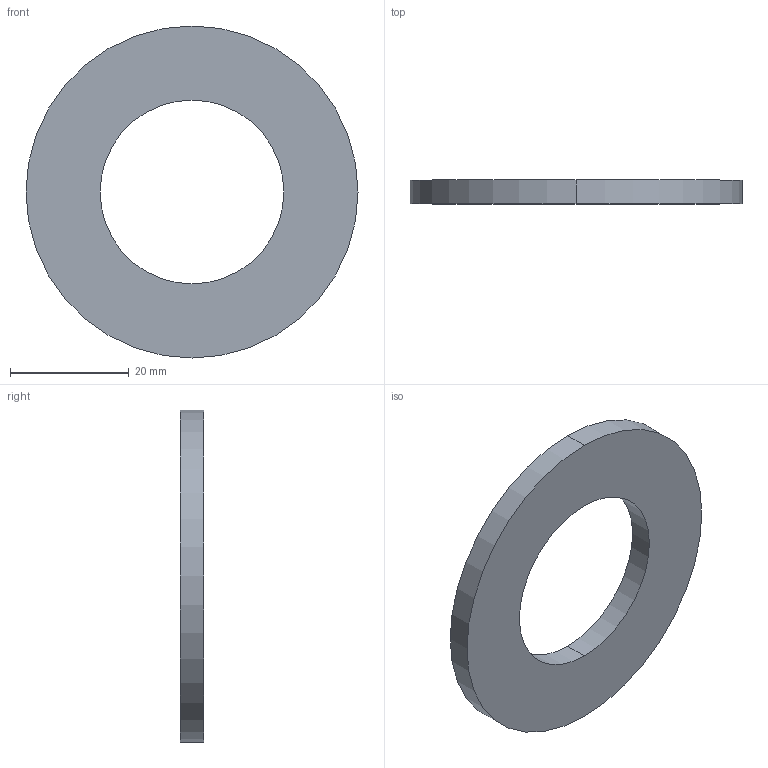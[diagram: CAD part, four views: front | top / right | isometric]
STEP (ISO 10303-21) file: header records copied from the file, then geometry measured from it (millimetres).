
FILE_DESCRIPTION (( 'STEP AP203' ), '1' );
FILE_NAME ('P0330.300-ZP.step', '2018-07-08T17:20:52', ( '' ), ( '' ), 'SwSTEP 2.0', 'SolidWorks 2017', '' );
FILE_SCHEMA (( 'CONFIG_CONTROL_DESIGN' ));
Length unit declared in the file: millimetre
Products named in the file (1): P0330.300-ZP
Bounding box: 56 x 4 x 56 mm (x, y, z)
Volume: 6833 mm3; surface area: 4509.8 mm2
Topology: 1 solids, 1 shells, 6 faces, 12 edges, 8 vertices
Faces by surface type: cylinder 4, plane 2
Entity records: 245 total; most frequent: DIRECTION 34, CARTESIAN_POINT 27, ORIENTED_EDGE 24, AXIS2_PLACEMENT_3D 15, EDGE_CURVE 12, EDGE_LOOP 8, PERSON_AND_ORGANIZATION 8, VERTEX_POINT 8
